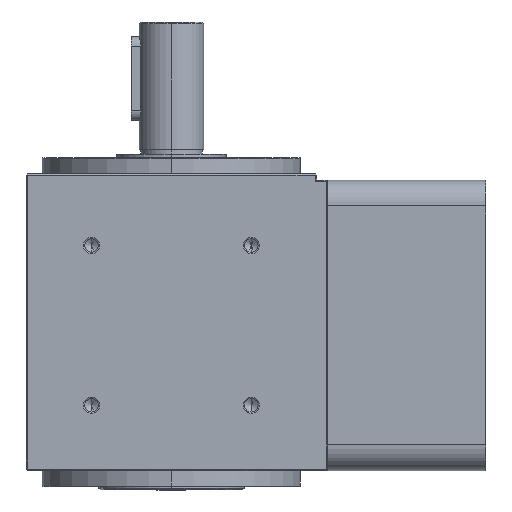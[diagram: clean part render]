
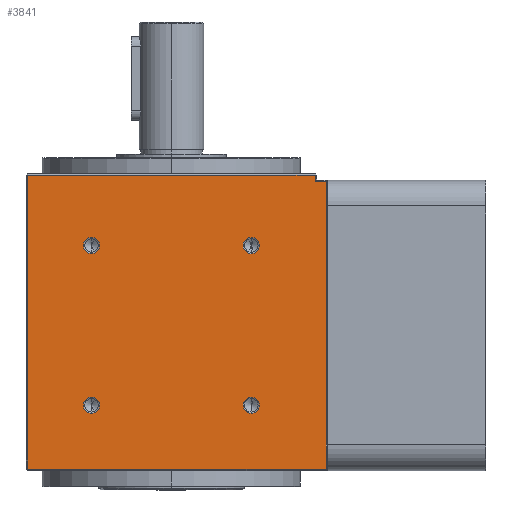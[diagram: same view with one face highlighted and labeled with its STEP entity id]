
A CAD part, left-side view. The second image highlights one B-rep face of the part: STEP entity #3841.
In plain terms, the highlighted planar face has unit normal (-1, 0, 0) as drawn and (1, 0, 0) by its records, which use the part's own axes.
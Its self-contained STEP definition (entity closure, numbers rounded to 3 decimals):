
#164 = EDGE_CURVE ( 'NONE', #9846, #30308, #22274, .T. ) ;
#272 = DIRECTION ( 'NONE',  ( 0., 0., -1. ) ) ;
#855 = FACE_BOUND ( 'NONE', #32732, .T. ) ;
#971 = AXIS2_PLACEMENT_3D ( 'NONE', #21732, #29812, #7123 ) ;
#1033 = VERTEX_POINT ( 'NONE', #11472 ) ;
#1159 = VECTOR ( 'NONE', #13995, 1000. ) ;
#1352 = AXIS2_PLACEMENT_3D ( 'NONE', #32011, #3724, #3239 ) ;
#1701 = VECTOR ( 'NONE', #12152, 1000. ) ;
#2220 = DIRECTION ( 'NONE',  ( 0., -1., 0. ) ) ;
#2329 = VERTEX_POINT ( 'NONE', #19455 ) ;
#2654 = LINE ( 'NONE', #36409, #1159 ) ;
#3115 = EDGE_CURVE ( 'NONE', #2329, #19569, #12869, .T. ) ;
#3139 = CARTESIAN_POINT ( 'NONE',  ( 45., 24.749, 24.751 ) ) ;
#3239 = DIRECTION ( 'NONE',  ( 0., 0., -1. ) ) ;
#3355 = EDGE_CURVE ( 'NONE', #10788, #14722, #34179, .T. ) ;
#3357 = DIRECTION ( 'NONE',  ( 0., -1., 0. ) ) ;
#3724 = DIRECTION ( 'NONE',  ( 1., 0., 0. ) ) ;
#3841 = ADVANCED_FACE ( 'NONE', ( #22127, #23932, #8444, #855, #30148 ), #31139, .F. ) ;
#3866 = AXIS2_PLACEMENT_3D ( 'NONE', #5589, #11452, #3357 ) ;
#3938 = CIRCLE ( 'NONE', #9773, 2.5 ) ;
#4309 = VERTEX_POINT ( 'NONE', #16201 ) ;
#4675 = DIRECTION ( 'NONE',  ( 1., 0., 0. ) ) ;
#4886 = EDGE_CURVE ( 'NONE', #19001, #22601, #22097, .T. ) ;
#5503 = VERTEX_POINT ( 'NONE', #25996 ) ;
#5589 = CARTESIAN_POINT ( 'NONE',  ( 45., -45., 102. ) ) ;
#5934 = CARTESIAN_POINT ( 'NONE',  ( 45., -24.749, 74.249 ) ) ;
#6161 = EDGE_CURVE ( 'NONE', #30308, #5503, #8316, .T. ) ;
#7123 = DIRECTION ( 'NONE',  ( 0., 0., -1. ) ) ;
#8316 = LINE ( 'NONE', #28935, #10091 ) ;
#8400 = CARTESIAN_POINT ( 'NONE',  ( 45., 24.749, 27.251 ) ) ;
#8444 = FACE_BOUND ( 'NONE', #23312, .T. ) ;
#8587 = ORIENTED_EDGE ( 'NONE', *, *, #3355, .F. ) ;
#8593 = ORIENTED_EDGE ( 'NONE', *, *, #164, .T. ) ;
#8651 = EDGE_LOOP ( 'NONE', ( #34458, #21591 ) ) ;
#8668 = AXIS2_PLACEMENT_3D ( 'NONE', #10030, #4675, #27380 ) ;
#8787 = AXIS2_PLACEMENT_3D ( 'NONE', #34135, #11609, #22982 ) ;
#9111 = DIRECTION ( 'NONE',  ( 0., 0., -1. ) ) ;
#9753 = CARTESIAN_POINT ( 'NONE',  ( 45., -45., 7.5 ) ) ;
#9773 = AXIS2_PLACEMENT_3D ( 'NONE', #8400, #10633, #16686 ) ;
#9846 = VERTEX_POINT ( 'NONE', #17459 ) ;
#9995 = CARTESIAN_POINT ( 'NONE',  ( 45., -24.749, 29.751 ) ) ;
#10030 = CARTESIAN_POINT ( 'NONE',  ( 45., -24.749, 76.749 ) ) ;
#10091 = VECTOR ( 'NONE', #272, 1000. ) ;
#10504 = AXIS2_PLACEMENT_3D ( 'NONE', #20041, #14130, #17211 ) ;
#10633 = DIRECTION ( 'NONE',  ( 1., 0., 0. ) ) ;
#10788 = VERTEX_POINT ( 'NONE', #26384 ) ;
#11411 = CARTESIAN_POINT ( 'NONE',  ( 45., -24.749, 79.249 ) ) ;
#11441 = AXIS2_PLACEMENT_3D ( 'NONE', #30012, #21194, #13027 ) ;
#11452 = DIRECTION ( 'NONE',  ( -1., 0., 0. ) ) ;
#11472 = CARTESIAN_POINT ( 'NONE',  ( 45., 24.749, 29.751 ) ) ;
#11609 = DIRECTION ( 'NONE',  ( 1., 0., 0. ) ) ;
#12152 = DIRECTION ( 'NONE',  ( 0., 1., 0. ) ) ;
#12562 = VECTOR ( 'NONE', #2220, 1000. ) ;
#12841 = ORIENTED_EDGE ( 'NONE', *, *, #27572, .F. ) ;
#12869 = CIRCLE ( 'NONE', #10504, 2.5 ) ;
#13027 = DIRECTION ( 'NONE',  ( 0., 0., -1. ) ) ;
#13703 = EDGE_LOOP ( 'NONE', ( #16009, #24108 ) ) ;
#13995 = DIRECTION ( 'NONE',  ( 0., 1., 0. ) ) ;
#14130 = DIRECTION ( 'NONE',  ( 1., 0., 0. ) ) ;
#14722 = VERTEX_POINT ( 'NONE', #26391 ) ;
#15332 = ORIENTED_EDGE ( 'NONE', *, *, #6161, .T. ) ;
#15340 = EDGE_CURVE ( 'NONE', #1033, #27253, #3938, .T. ) ;
#15630 = ORIENTED_EDGE ( 'NONE', *, *, #16198, .T. ) ;
#16009 = ORIENTED_EDGE ( 'NONE', *, *, #35996, .F. ) ;
#16198 = EDGE_CURVE ( 'NONE', #5503, #35161, #34075, .T. ) ;
#16201 = CARTESIAN_POINT ( 'NONE',  ( 45., 44.5, 5.5 ) ) ;
#16686 = DIRECTION ( 'NONE',  ( 0., 0., -1. ) ) ;
#17211 = DIRECTION ( 'NONE',  ( 0., 0., -1. ) ) ;
#17459 = CARTESIAN_POINT ( 'NONE',  ( 45., 44.5, 96.5 ) ) ;
#18530 = ORIENTED_EDGE ( 'NONE', *, *, #26352, .T. ) ;
#18937 = EDGE_CURVE ( 'NONE', #32213, #4309, #2654, .T. ) ;
#19001 = VERTEX_POINT ( 'NONE', #11411 ) ;
#19192 = VECTOR ( 'NONE', #28195, 1000. ) ;
#19455 = CARTESIAN_POINT ( 'NONE',  ( 45., -24.749, 24.751 ) ) ;
#19569 = VERTEX_POINT ( 'NONE', #9995 ) ;
#19847 = CARTESIAN_POINT ( 'NONE',  ( 45., -44.5, 102. ) ) ;
#20041 = CARTESIAN_POINT ( 'NONE',  ( 45., -24.749, 27.251 ) ) ;
#20139 = ORIENTED_EDGE ( 'NONE', *, *, #20639, .T. ) ;
#20639 = EDGE_CURVE ( 'NONE', #4309, #9846, #24313, .T. ) ;
#21040 = EDGE_LOOP ( 'NONE', ( #15630, #18530, #25437, #20139, #8593, #15332 ) ) ;
#21194 = DIRECTION ( 'NONE',  ( 1., 0., 0. ) ) ;
#21591 = ORIENTED_EDGE ( 'NONE', *, *, #28853, .F. ) ;
#21732 = CARTESIAN_POINT ( 'NONE',  ( 45., 24.749, 76.749 ) ) ;
#22097 = CIRCLE ( 'NONE', #8668, 2.5 ) ;
#22127 = FACE_OUTER_BOUND ( 'NONE', #21040, .T. ) ;
#22274 = LINE ( 'NONE', #33346, #12562 ) ;
#22423 = CIRCLE ( 'NONE', #8787, 2.5 ) ;
#22601 = VERTEX_POINT ( 'NONE', #5934 ) ;
#22982 = DIRECTION ( 'NONE',  ( 0., 0., -1. ) ) ;
#23312 = EDGE_LOOP ( 'NONE', ( #33959, #35653 ) ) ;
#23932 = FACE_BOUND ( 'NONE', #8651, .T. ) ;
#24105 = LINE ( 'NONE', #19847, #19192 ) ;
#24108 = ORIENTED_EDGE ( 'NONE', *, *, #15340, .F. ) ;
#24313 = LINE ( 'NONE', #36319, #27423 ) ;
#25437 = ORIENTED_EDGE ( 'NONE', *, *, #18937, .T. ) ;
#25939 = CARTESIAN_POINT ( 'NONE',  ( 45., -44.5, 7.5 ) ) ;
#25996 = CARTESIAN_POINT ( 'NONE',  ( 45., -47.93, 7.5 ) ) ;
#26352 = EDGE_CURVE ( 'NONE', #35161, #32213, #24105, .T. ) ;
#26384 = CARTESIAN_POINT ( 'NONE',  ( 45., 24.749, 79.249 ) ) ;
#26391 = CARTESIAN_POINT ( 'NONE',  ( 45., 24.749, 74.249 ) ) ;
#27253 = VERTEX_POINT ( 'NONE', #3139 ) ;
#27380 = DIRECTION ( 'NONE',  ( 0., 0., -1. ) ) ;
#27423 = VECTOR ( 'NONE', #36578, 1000. ) ;
#27572 = EDGE_CURVE ( 'NONE', #14722, #10788, #32921, .T. ) ;
#28195 = DIRECTION ( 'NONE',  ( 0., 0., -1. ) ) ;
#28853 = EDGE_CURVE ( 'NONE', #19569, #2329, #31101, .T. ) ;
#28935 = CARTESIAN_POINT ( 'NONE',  ( 45., -47.93, 102. ) ) ;
#29812 = DIRECTION ( 'NONE',  ( 1., 0., 0. ) ) ;
#30012 = CARTESIAN_POINT ( 'NONE',  ( 45., 24.749, 76.749 ) ) ;
#30148 = FACE_BOUND ( 'NONE', #13703, .T. ) ;
#30308 = VERTEX_POINT ( 'NONE', #33209 ) ;
#31101 = CIRCLE ( 'NONE', #36600, 2.5 ) ;
#31139 = PLANE ( 'NONE',  #3866 ) ;
#31286 = CARTESIAN_POINT ( 'NONE',  ( 45., -44.5, 5.5 ) ) ;
#31555 = CARTESIAN_POINT ( 'NONE',  ( 45., -24.749, 27.251 ) ) ;
#32011 = CARTESIAN_POINT ( 'NONE',  ( 45., -24.749, 76.749 ) ) ;
#32213 = VERTEX_POINT ( 'NONE', #31286 ) ;
#32732 = EDGE_LOOP ( 'NONE', ( #12841, #8587 ) ) ;
#32921 = CIRCLE ( 'NONE', #11441, 2.5 ) ;
#33209 = CARTESIAN_POINT ( 'NONE',  ( 45., -47.93, 96.5 ) ) ;
#33346 = CARTESIAN_POINT ( 'NONE',  ( 45., -48.43, 96.5 ) ) ;
#33959 = ORIENTED_EDGE ( 'NONE', *, *, #35254, .F. ) ;
#34075 = LINE ( 'NONE', #9753, #1701 ) ;
#34135 = CARTESIAN_POINT ( 'NONE',  ( 45., 24.749, 27.251 ) ) ;
#34179 = CIRCLE ( 'NONE', #971, 2.5 ) ;
#34458 = ORIENTED_EDGE ( 'NONE', *, *, #3115, .F. ) ;
#34509 = DIRECTION ( 'NONE',  ( 1., 0., 0. ) ) ;
#35161 = VERTEX_POINT ( 'NONE', #25939 ) ;
#35254 = EDGE_CURVE ( 'NONE', #22601, #19001, #35327, .T. ) ;
#35327 = CIRCLE ( 'NONE', #1352, 2.5 ) ;
#35653 = ORIENTED_EDGE ( 'NONE', *, *, #4886, .F. ) ;
#35996 = EDGE_CURVE ( 'NONE', #27253, #1033, #22423, .T. ) ;
#36319 = CARTESIAN_POINT ( 'NONE',  ( 45., 44.5, 102. ) ) ;
#36409 = CARTESIAN_POINT ( 'NONE',  ( 45., 45., 5.5 ) ) ;
#36578 = DIRECTION ( 'NONE',  ( 0., 0., 1. ) ) ;
#36600 = AXIS2_PLACEMENT_3D ( 'NONE', #31555, #34509, #9111 ) ;
